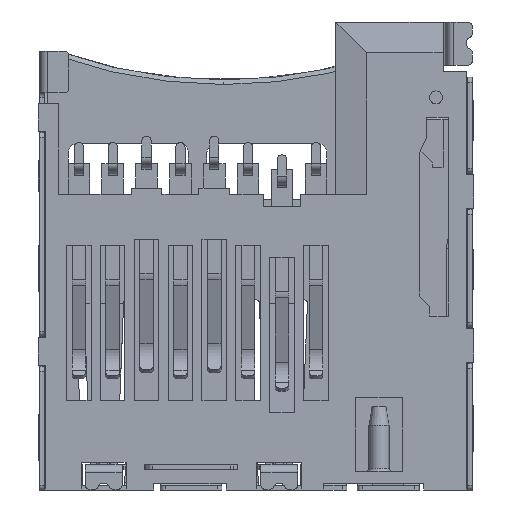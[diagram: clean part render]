
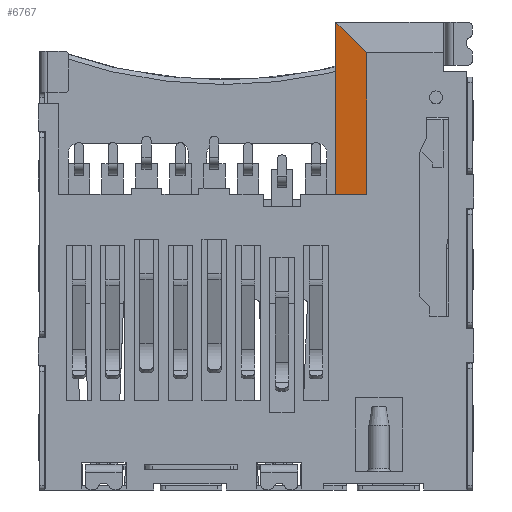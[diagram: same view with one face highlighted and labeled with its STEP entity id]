
A CAD part, front view. The second image highlights one B-rep face of the part: STEP entity #6767.
In plain terms, the highlighted planar face has unit normal (-0.196, -0.981, 0).
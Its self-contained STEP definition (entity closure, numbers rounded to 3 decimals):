
#2230=DIRECTION('',(0.981,-0.196,0.));
#2231=VECTOR('',#2230,1.02);
#2232=CARTESIAN_POINT('',(2.595,-0.65,2.));
#2233=LINE('',#2232,#2231);
#2254=DIRECTION('',(0.,0.,1.));
#2255=VECTOR('',#2254,5.6);
#2256=CARTESIAN_POINT('',(2.595,-0.65,2.));
#2257=LINE('',#2256,#2255);
#2258=DIRECTION('',(0.7,-0.14,-0.7));
#2259=VECTOR('',#2258,1.428);
#2260=CARTESIAN_POINT('',(2.595,-0.65,7.6));
#2261=LINE('',#2260,#2259);
#2262=DIRECTION('',(0.,0.,-1.));
#2263=VECTOR('',#2262,4.6);
#2264=CARTESIAN_POINT('',(3.595,-0.85,6.6));
#2265=LINE('',#2264,#2263);
#3082=CARTESIAN_POINT('',(2.595,-0.65,7.6));
#3083=VERTEX_POINT('',#3082);
#3104=CARTESIAN_POINT('',(3.595,-0.85,6.6));
#3105=VERTEX_POINT('',#3104);
#3106=CARTESIAN_POINT('',(3.595,-0.85,2.));
#3107=VERTEX_POINT('',#3106);
#3306=CARTESIAN_POINT('',(2.595,-0.65,2.));
#3307=VERTEX_POINT('',#3306);
#6755=CARTESIAN_POINT('',(3.095,-0.75,4.8));
#6756=DIRECTION('',(0.196,0.981,0.));
#6757=DIRECTION('',(0.,0.,-1.));
#6758=AXIS2_PLACEMENT_3D('',#6755,#6756,#6757);
#6759=PLANE('',#6758);
#6760=ORIENTED_EDGE('',*,*,#6735,.F.);
#6761=ORIENTED_EDGE('',*,*,#6749,.T.);
#6763=ORIENTED_EDGE('',*,*,#6762,.T.);
#6764=ORIENTED_EDGE('',*,*,#3739,.T.);
#6765=EDGE_LOOP('',(#6760,#6761,#6763,#6764));
#6766=FACE_OUTER_BOUND('',#6765,.F.);
#3739=EDGE_CURVE('',#3105,#3107,#2265,.T.);
#6735=EDGE_CURVE('',#3307,#3107,#2233,.T.);
#6749=EDGE_CURVE('',#3307,#3083,#2257,.T.);
#6762=EDGE_CURVE('',#3083,#3105,#2261,.T.);
#6767=ADVANCED_FACE('',(#6766),#6759,.F.);
